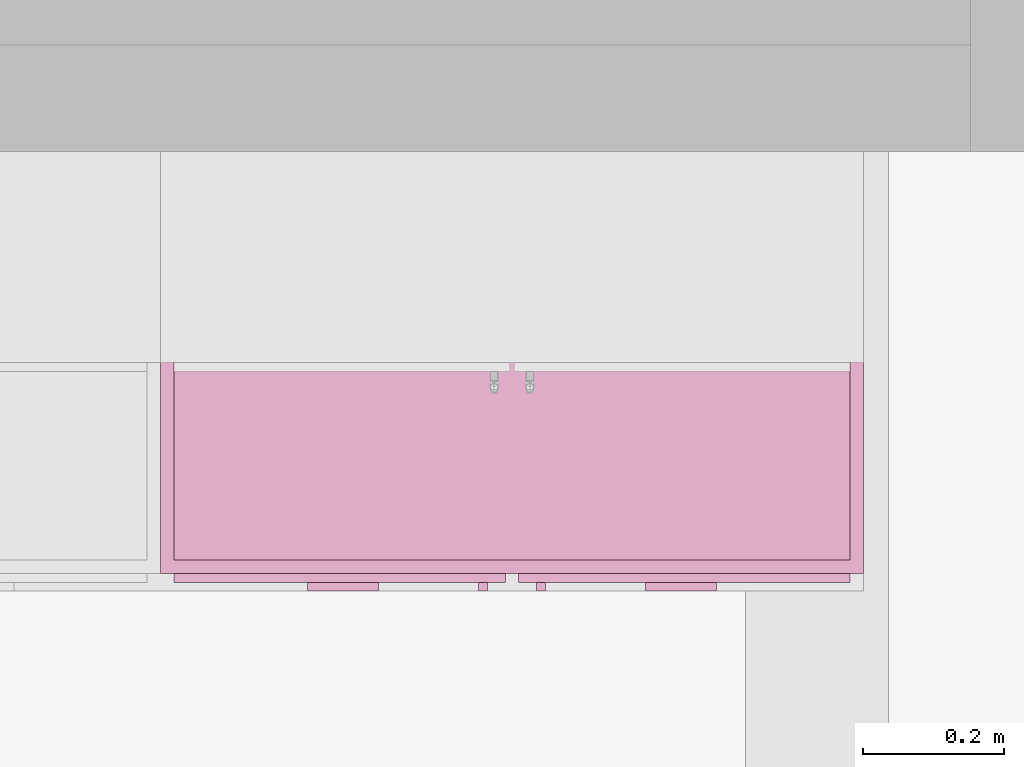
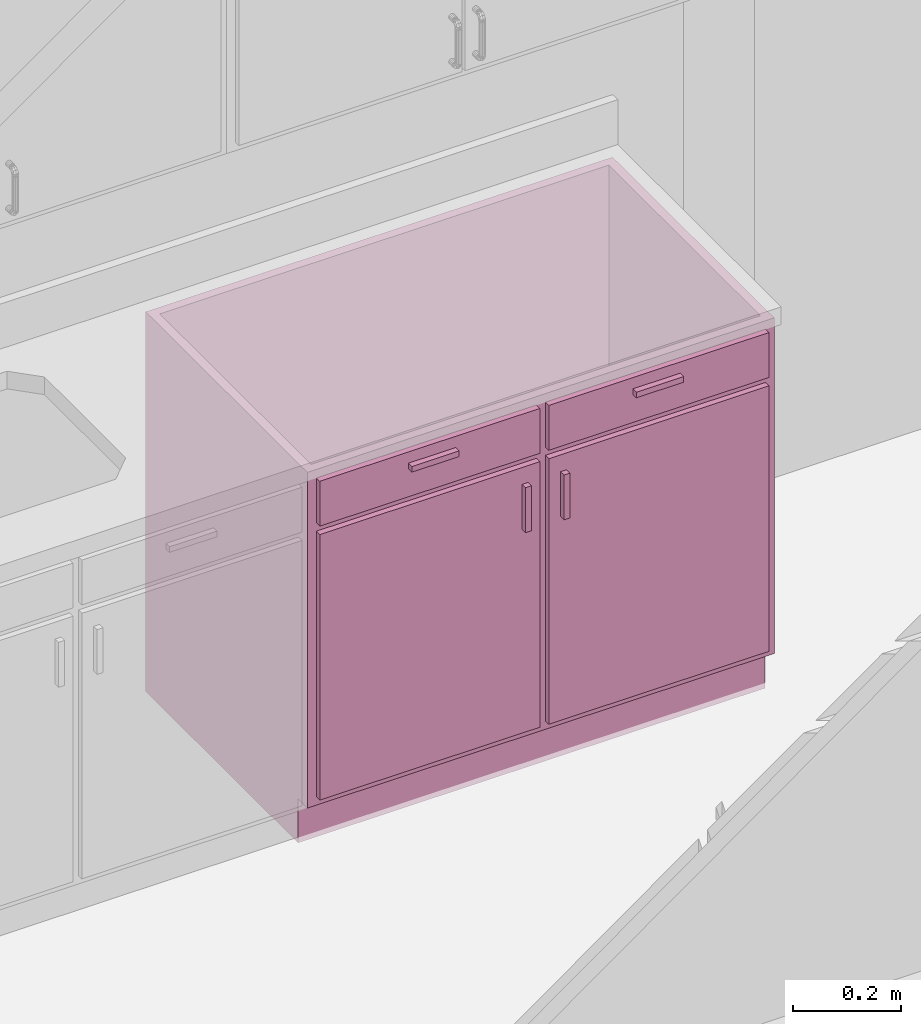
# One storey, part 11 of 18: 1 furnishing.
"""IFC4 building model written with IfcOpenShell, lengths in metres."""

from ifc_helpers import new_model, entity, si_unit, converted_unit, frame, origin, place, context, project, spatial, face_set, surface_model, source, transform, mapped, type_object, type_shapes, element, save


model = new_model("IFC4")

# Units and contexts
model_context = context("Model", 3, precision=1e-09, world=origin())
plan_context = context("Plan", 3, precision=1e-09, world=origin())
ifc_project = project(units=[si_unit("LENGTHUNIT", "METRE"), si_unit("AREAUNIT", "SQUARE_METRE"), si_unit("VOLUMEUNIT", "CUBIC_METRE"), converted_unit("PLANEANGLEUNIT", "DEGREE", entity("IfcRatioMeasure", 0.01745329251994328), si_unit("PLANEANGLEUNIT", "RADIAN"), dimensions=[0, 0, 0, 0, 0, 0, 0]), si_unit("TIMEUNIT", "SECOND")], contexts=[model_context, plan_context])

# Site, building, storey, space
site_placement = place(None, origin())
site = spatial("IfcSite", under=ifc_project, at=site_placement, Name="Default", CompositionType="ELEMENT")
building_placement = place(site_placement, origin())
building = spatial("IfcBuilding", under=site, at=building_placement, CompositionType="ELEMENT")
storey_placement = place(building_placement, origin())
storey = spatial("IfcBuildingStorey", under=building, at=storey_placement, Name="Level 1", CompositionType="ELEMENT", Elevation=0.0)
space_placement = place(storey_placement, origin())
space = spatial("IfcSpace", under=storey, at=space_placement, Name="A103", CompositionType="ELEMENT", PredefinedType="SPACE")

# Furnishing
furniture_type = type_object("IfcFurnitureType", Name="1000mm", AssemblyPlace="NOTDEFINED")
shared_shape = source(origin(), model_context, "Body", "SurfaceModel", [
    surface_model("IfcFaceBasedSurfaceModel", [(0.9809499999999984, 0.04445000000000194, 0.8600000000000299), (0.9809499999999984, 0.04445000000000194, 0.0999999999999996), (0.01905000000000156, 0.04445000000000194, 0.0999999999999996), (0.01905000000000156, 0.04445000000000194, 0.8600000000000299), (1.0, 0.02540000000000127, 0.8600000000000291), (0.0, 0.02540000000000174, 0.8600000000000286), (1.0, 0.02540000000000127, 0.0999999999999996), (0.0, 0.02540000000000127, 0.09999999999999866), (0.01905000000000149, 0.606349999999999, 0.8600000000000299), (0.01905000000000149, 0.606349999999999, 0.09999999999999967), (0.01905000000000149, 0.06040000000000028, 0.0999999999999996), (0.0, 0.6253999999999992, 0.8600000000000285), (0.0, 0.6254000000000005, 0.0), (0.0, 0.06040000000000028, 0.0), (0.0, 0.06040000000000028, 0.09999999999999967), (0.9809499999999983, 0.6063499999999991, 0.8600000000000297), (0.9809499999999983, 0.6063499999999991, 0.09999999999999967), (1.0, 0.6253999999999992, 0.8600000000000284), (1.0, 0.6253999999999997, 0.0), (0.9809499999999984, 0.06040000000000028, 0.09999999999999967), (1.0, 0.06040000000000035, 0.09999999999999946), (1.0, 0.06040000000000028, 0.0), (0.3103250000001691, 0.0, 0.815550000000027), (0.3103250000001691, 0.0, 0.8028500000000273), (0.2087250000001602, 0.0, 0.8028500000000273), (0.2087250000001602, 0.0, 0.815550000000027), (0.7912750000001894, 0.0, 0.815550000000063), (0.7912750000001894, 0.0, 0.8028500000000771), (0.6896750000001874, 0.0, 0.8028500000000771), (0.6896750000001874, 0.0, 0.815550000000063), (0.4650750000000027, 0.0, 0.6822000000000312), (0.4650750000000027, 0.0, 0.5806000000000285), (0.4523750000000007, 0.0, 0.5806000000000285), (0.4523750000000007, 0.0, 0.6822000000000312), (0.5476249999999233, 0.0, 0.6822000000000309), (0.5476249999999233, 0.0, 0.5806000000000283), (0.5349249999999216, 0.0, 0.5806000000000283), (0.5349249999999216, 0.0, 0.6822000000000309), (0.3103250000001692, 0.01270000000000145, 0.815550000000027), (0.3103250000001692, 0.01270000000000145, 0.8028500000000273), (0.2087250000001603, 0.01270000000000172, 0.8028500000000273), (0.2087250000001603, 0.01270000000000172, 0.815550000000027), (0.7912750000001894, 0.01269999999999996, 0.815550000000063), (0.7912750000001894, 0.01269999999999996, 0.8028500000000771), (0.6896750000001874, 0.01270000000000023, 0.8028500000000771), (0.6896750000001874, 0.01270000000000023, 0.815550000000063), (0.4650750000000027, 0.0127000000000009, 0.6822000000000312), (0.4650750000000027, 0.0127000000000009, 0.5806000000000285), (0.4523750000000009, 0.0127000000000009, 0.5806000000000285), (0.4523750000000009, 0.0127000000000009, 0.6822000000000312), (0.5476249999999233, 0.01270000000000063, 0.6822000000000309), (0.5476249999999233, 0.01270000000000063, 0.5806000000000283), (0.5349249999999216, 0.01270000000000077, 0.5806000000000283), (0.5349249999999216, 0.01270000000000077, 0.6822000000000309), (0.4904749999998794, 0.0127000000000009, 0.840950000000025), (0.4904749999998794, 0.0127000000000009, 0.7393500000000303), (0.01905000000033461, 0.01270000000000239, 0.7393500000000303), (0.01905000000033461, 0.01270000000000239, 0.840950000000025), (0.9809500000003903, 0.01269999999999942, 0.8409500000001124), (0.9809500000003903, 0.01269999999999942, 0.7393500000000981), (0.509524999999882, 0.0127000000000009, 0.7393500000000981), (0.509524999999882, 0.0127000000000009, 0.8409500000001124), (0.4904749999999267, 0.0127000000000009, 0.7203000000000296), (0.4904749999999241, 0.0127000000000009, 0.119049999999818), (0.01905000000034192, 0.01270000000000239, 0.119049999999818), (0.01905000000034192, 0.01270000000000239, 0.7203000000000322), (0.9809500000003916, 0.01269999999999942, 0.7203000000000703), (0.9809500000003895, 0.01269999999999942, 0.1190499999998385), (0.5095249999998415, 0.0127000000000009, 0.1190499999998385), (0.5095249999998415, 0.0127000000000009, 0.7203000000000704), (0.4904749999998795, 0.02540000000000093, 0.840950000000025), (0.4904749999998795, 0.02540000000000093, 0.7393500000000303), (0.01905000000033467, 0.02540000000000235, 0.7393500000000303), (0.01905000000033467, 0.02540000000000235, 0.840950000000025), (0.9809500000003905, 0.02539999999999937, 0.8409500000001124), (0.9809500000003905, 0.02539999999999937, 0.7393500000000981), (0.5095249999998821, 0.02540000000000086, 0.7393500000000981), (0.5095249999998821, 0.02540000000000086, 0.8409500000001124), (0.4904749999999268, 0.02540000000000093, 0.7203000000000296), (0.4904749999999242, 0.02540000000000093, 0.119049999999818), (0.01905000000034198, 0.02540000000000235, 0.119049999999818), (0.01905000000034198, 0.02540000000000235, 0.7203000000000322), (0.9809500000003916, 0.02539999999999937, 0.7203000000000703), (0.9809500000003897, 0.02539999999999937, 0.1190499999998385), (0.5095249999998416, 0.02540000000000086, 0.1190499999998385), (0.5095249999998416, 0.02540000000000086, 0.7203000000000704), (0.9809499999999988, 0.6063499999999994, 0.1190499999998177), (0.9809499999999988, 0.04445000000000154, 0.1190499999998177), (0.01905000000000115, 0.04445000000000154, 0.1190499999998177), (0.01905000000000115, 0.6063499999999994, 0.1190499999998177), (0.9809499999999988, 0.6063499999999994, 0.09999999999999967), (0.9809499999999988, 0.04445000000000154, 0.09999999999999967), (0.01905000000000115, 0.04445000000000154, 0.09999999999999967), (0.01905000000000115, 0.6063499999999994, 0.09999999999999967)], [face_set([[[0, 1, 2, 3]], [[0, 4, 5, 3]], [[4, 6, 7, 5]], [[2, 1, 6, 7]], [[3, 8, 9, 10, 2]], [[5, 11, 8, 3]], [[7, 5, 11, 12, 13, 14]], [[2, 7, 14, 10]], [[8, 15, 16, 9]], [[11, 17, 15, 8]], [[12, 11, 17, 18]], [[1, 19, 16, 15, 0]], [[0, 15, 17, 4]], [[4, 6, 20, 21, 18, 17]], [[6, 1, 19, 20]], [[10, 9, 16, 19]], [[18, 21, 13, 12]], [[13, 14, 10, 19, 20, 21]]]), face_set([[[22, 23, 24, 25]], [[26, 27, 28, 29]], [[30, 31, 32, 33]], [[34, 35, 36, 37]], [[38, 39, 40, 41]], [[42, 43, 44, 45]], [[46, 47, 48, 49]], [[50, 51, 52, 53]], [[25, 41, 38, 22]], [[24, 40, 41, 25]], [[23, 24, 40, 39]], [[22, 23, 39, 38]], [[29, 45, 42, 26]], [[28, 44, 45, 29]], [[27, 28, 44, 43]], [[26, 27, 43, 42]], [[33, 49, 46, 30]], [[32, 48, 49, 33]], [[31, 32, 48, 47]], [[30, 31, 47, 46]], [[37, 53, 50, 34]], [[36, 52, 53, 37]], [[35, 36, 52, 51]], [[34, 35, 51, 50]]]), face_set([[[54, 55, 56, 57]], [[58, 59, 60, 61]], [[62, 63, 64, 65]], [[66, 67, 68, 69]], [[70, 71, 72, 73]], [[74, 75, 76, 77]], [[78, 79, 80, 81]], [[82, 83, 84, 85]], [[57, 73, 70, 54]], [[56, 57, 73, 72]], [[55, 56, 72, 71]], [[54, 55, 71, 70]], [[61, 77, 74, 58]], [[60, 76, 77, 61]], [[59, 60, 76, 75]], [[58, 59, 75, 74]], [[65, 81, 78, 62]], [[64, 65, 81, 80]], [[63, 64, 80, 79]], [[62, 63, 79, 78]], [[69, 85, 82, 66]], [[68, 84, 85, 69]], [[67, 68, 84, 83]], [[66, 67, 83, 82]]]), face_set([[[86, 87, 88, 89]], [[90, 91, 92, 93]], [[89, 86, 90, 93]], [[88, 89, 93, 92]], [[87, 91, 92, 88]], [[86, 87, 91, 90]]])]),
])
type_shapes(furniture_type, [shared_shape])
furnishing_placement = place(space_placement, frame((3.465999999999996, -10.99540000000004, 0.0)))
element("IfcFurnishingElement", 1, at=furnishing_placement, inside=space, type_object=furniture_type, Name="M_Base Cabinet-Double Door & 2 Drawer:1000mm:1000mm", ObjectType="1000mm", context=model_context, shape_type="MappedRepresentation", body=[
    mapped(shared_shape, transform((0.0, 0.0, 0.0), scale=1.0)),
])

save(model, "model.ifc")
